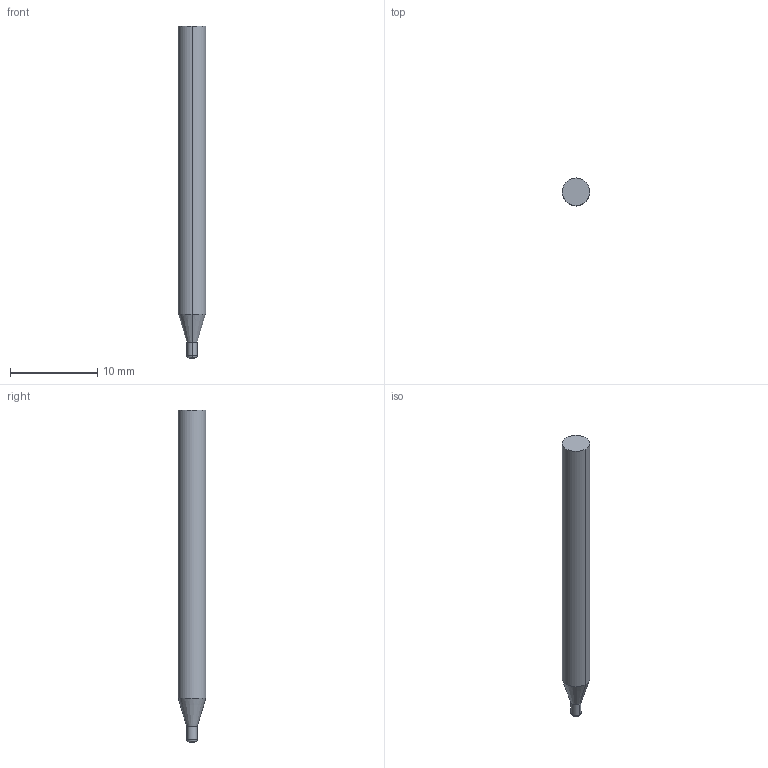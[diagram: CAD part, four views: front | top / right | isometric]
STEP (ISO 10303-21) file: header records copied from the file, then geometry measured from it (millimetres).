
FILE_DESCRIPTION((' '),'2;1');
FILE_NAME( '3MVS0468R.010AH.stp', '2026-01-21T19:07:30', (' '), ('--- Datakit www.datakit.com---'), ' Datakit CrossCadWare V2025.4 Sep 19 2025', 'Mastercam 2027', ' ');
FILE_SCHEMA(('AUTOMOTIVE_DESIGN { 1 0 10303 214 1 1 1 1 }'));
Length unit declared in the file: inch
Products named in the file (1): 3MVS0468R
Bounding box: 3.17 x 3.17 x 38.1 mm (x, y, z)
Volume: 276.8 mm3; surface area: 368.4 mm2
Topology: 1 solids, 1 shells, 10 faces, 18 edges, 10 vertices
Faces by surface type: cylinder 4, plane 2, torus 2, cone 2
Entity records: 318 total; most frequent: DIRECTION 60, CARTESIAN_POINT 43, ORIENTED_EDGE 36, AXIS2_PLACEMENT_3D 27, EDGE_CURVE 18, CIRCLE 12, VERTEX_POINT 10, EDGE_LOOP 10
